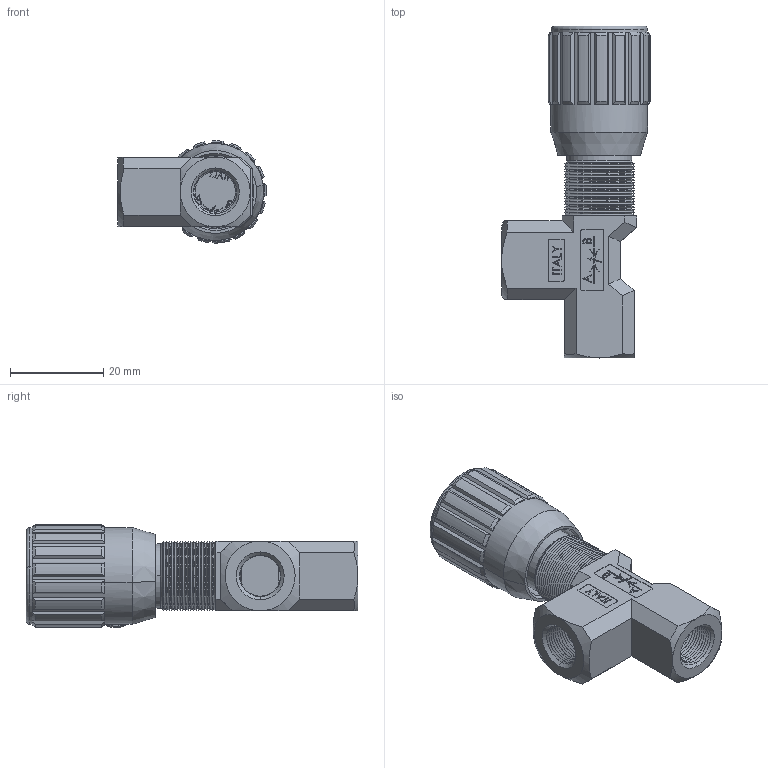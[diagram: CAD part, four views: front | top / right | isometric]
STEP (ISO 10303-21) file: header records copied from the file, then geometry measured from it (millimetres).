
FILE_DESCRIPTION (( 'STEP AP214' ), '1' );
FILE_NAME ('252-2-18 VOLANTINO F-F.STEP', '2015-05-15T15:36:42', ( '' ), ( '' ), 'SwSTEP 2.0', 'SolidWorks 2014', '' );
FILE_SCHEMA (( 'AUTOMOTIVE_DESIGN' ));
Length unit declared in the file: millimetre
Products named in the file (1): 252-2-18 VOLANTINO F-F
Bounding box: 32 x 71.3 x 22.03 mm (x, y, z)
Surface area: 7540.6 mm2 (no closed solid volume)
Topology: 0 solids, 30 shells, 531 faces, 1834 edges, 1261 vertices
Faces by surface type: plane 243, cone 182, cylinder 56, bspline 48, torus 2
Entity records: 28746 total; most frequent: CARTESIAN_POINT 7627, DIRECTION 3007, ORIENTED_EDGE 2958, EDGE_CURVE 1834, VERTEX_POINT 1261, LINE 1181, VECTOR 1181, AXIS2_PLACEMENT_3D 913
